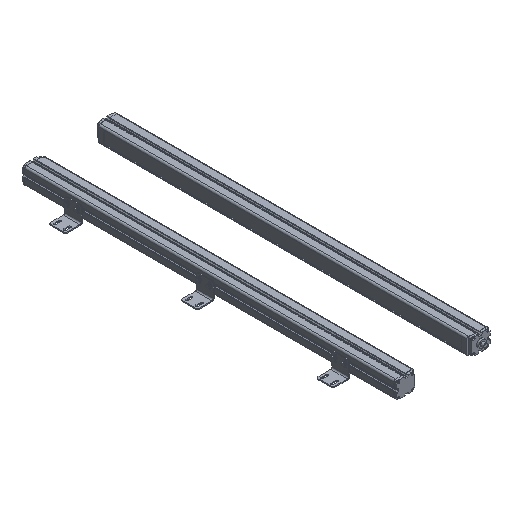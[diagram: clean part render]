
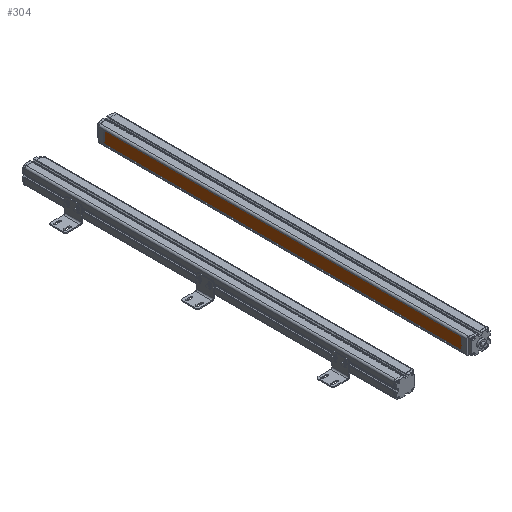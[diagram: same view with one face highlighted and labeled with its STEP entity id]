
A CAD part, isometric view. The second image highlights one B-rep face of the part: STEP entity #304.
In plain terms, the highlighted planar face has unit normal (-1, 0, 0).
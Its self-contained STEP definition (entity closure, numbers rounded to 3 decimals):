
#304 = ADVANCED_FACE( '', ( #997 ), #998, .F. );
#997 = FACE_OUTER_BOUND( '', #2439, .T. );
#998 = PLANE( '', #2440 );
#2439 = EDGE_LOOP( '', ( #3888, #3889, #3890, #3891 ) );
#2440 = AXIS2_PLACEMENT_3D( '', #3892, #3893, #3894 );
#3888 = ORIENTED_EDGE( '', *, *, #9838, .F. );
#3889 = ORIENTED_EDGE( '', *, *, #9839, .F. );
#3890 = ORIENTED_EDGE( '', *, *, #9840, .F. );
#3891 = ORIENTED_EDGE( '', *, *, #9841, .F. );
#3892 = CARTESIAN_POINT( '', ( 2.444, 0., 0. ) );
#3893 = DIRECTION( '', ( 1., 0., 0. ) );
#3894 = DIRECTION( '', ( 0., 0., -1. ) );
#9838 = EDGE_CURVE( '', #11789, #11790, #11791, .T. );
#9839 = EDGE_CURVE( '', #11792, #11789, #11793, .T. );
#9840 = EDGE_CURVE( '', #11794, #11792, #11795, .T. );
#9841 = EDGE_CURVE( '', #11790, #11794, #11796, .T. );
#11789 = VERTEX_POINT( '', #15049 );
#11790 = VERTEX_POINT( '', #15050 );
#11791 = LINE( '', #15051, #15052 );
#11792 = VERTEX_POINT( '', #15053 );
#11793 = LINE( '', #15054, #15055 );
#11794 = VERTEX_POINT( '', #15056 );
#11795 = LINE( '', #15057, #15058 );
#11796 = LINE( '', #15059, #15060 );
#15049 = CARTESIAN_POINT( '', ( 2.444, 1098., 19. ) );
#15050 = CARTESIAN_POINT( '', ( 2.444, 25., 19. ) );
#15051 = CARTESIAN_POINT( '', ( 2.444, 1098., 19. ) );
#15052 = VECTOR( '', #19715, 1000. );
#15053 = CARTESIAN_POINT( '', ( 2.444, 1098., -19. ) );
#15054 = CARTESIAN_POINT( '', ( 2.444, 1098., -19. ) );
#15055 = VECTOR( '', #19716, 1000. );
#15056 = CARTESIAN_POINT( '', ( 2.444, 25., -19. ) );
#15057 = CARTESIAN_POINT( '', ( 2.444, 25., -19. ) );
#15058 = VECTOR( '', #19717, 1000. );
#15059 = CARTESIAN_POINT( '', ( 2.444, 25., 19. ) );
#15060 = VECTOR( '', #19718, 1000. );
#19715 = DIRECTION( '', ( 0., -1., 0. ) );
#19716 = DIRECTION( '', ( 0., 0., 1. ) );
#19717 = DIRECTION( '', ( 0., 1., 0. ) );
#19718 = DIRECTION( '', ( 0., 0., -1. ) );
